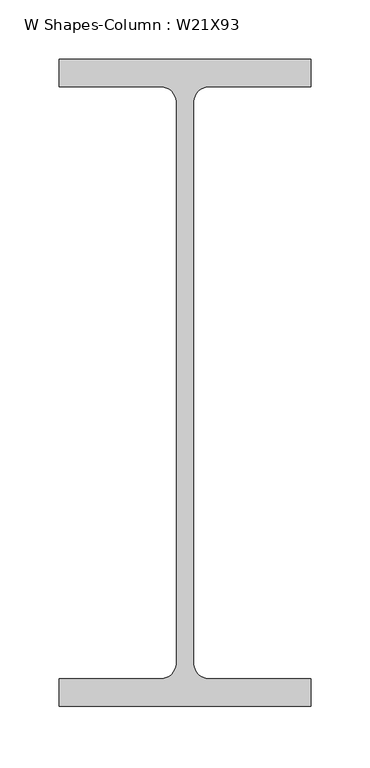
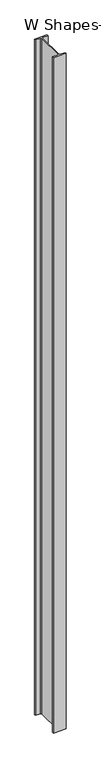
"""IFC4 building model written with IfcOpenShell, lengths in millimetres: column geometry, W Shapes-Column : W21X93."""

from ifc_helpers import new_model, si_unit, point, frame, frame_2d, origin, place, context, project, spatial, polyline, circle_curve, trimmed, segment, composite_curve, outline, extrude, source, transform, mapped, element, save


def w_shapes_column_w21x93_f6fee3cd(model_context):
    return source(origin(), model_context, "Body", "SweptSolid", [
        extrude(outline(composite_curve([segment(polyline([(106.934, 274.32), (106.934, 250.698), (20.066, 250.698)]), True, "CONTINUOUS"), segment(trimmed(circle_curve(frame_2d((20.066, 237.998)), 12.7), [point((20.066, 250.698))], [point((7.366, 237.998))], True, "CARTESIAN"), True, "CONTINUOUS"), segment(polyline([(7.366, 237.998), (7.366, -237.998)]), True, "CONTINUOUS"), segment(trimmed(circle_curve(frame_2d((20.066, -237.998)), 12.7), [point((7.366, -237.998))], [point((20.066, -250.698))], True, "CARTESIAN"), True, "CONTINUOUS"), segment(polyline([(20.066, -250.698), (106.934, -250.698), (106.934, -274.32), (-106.934, -274.32), (-106.934, -250.698), (-20.066, -250.698)]), True, "CONTINUOUS"), segment(trimmed(circle_curve(frame_2d((-20.066, -237.998)), 12.7), [point((-20.066, -250.698))], [point((-7.366, -237.998))], True, "CARTESIAN"), True, "CONTINUOUS"), segment(polyline([(-7.366, -237.998), (-7.366, 237.998)]), True, "CONTINUOUS"), segment(trimmed(circle_curve(frame_2d((-20.066, 237.998)), 12.7), [point((-7.366, 237.998))], [point((-20.066, 250.698))], True, "CARTESIAN"), True, "CONTINUOUS"), segment(polyline([(-20.066, 250.698), (-106.934, 250.698), (-106.934, 274.32), (106.934, 274.32)]), True, "CONTINUOUS")], self_intersect=False)), frame((0.0, 0.0, -450.0), z_axis=(0.0, 0.0, 1.0), x_axis=(1.0, 0.0, 0.0)), (0.0, 0.0, 1.0), 12150.0),
    ])


if __name__ == "__main__":
    model = new_model("IFC4")
    model_context = context("Model", 3, world=origin())
    ifc_project = project(units=[si_unit("LENGTHUNIT", "METRE", prefix="MILLI")], contexts=[model_context])
    site = spatial("IfcSite", under=ifc_project)
    building = spatial("IfcBuilding", under=site)
    placement = place(None, origin())
    w_shapes_column_w21x93_shape = w_shapes_column_w21x93_f6fee3cd(model_context)
    element("IfcColumn", 1, ObjectType="W Shapes-Column : W21X93", at=placement, inside=building, context=model_context, shape_type="MappedRepresentation", body=[
        mapped(w_shapes_column_w21x93_shape, transform((0.0, 0.0, 0.0), x_axis=(1.0, 0.0, 0.0), y_axis=(0.0, 1.0, 0.0), z_axis=(0.0, 0.0, 1.0))),
    ])
    save(model, "model.ifc")
